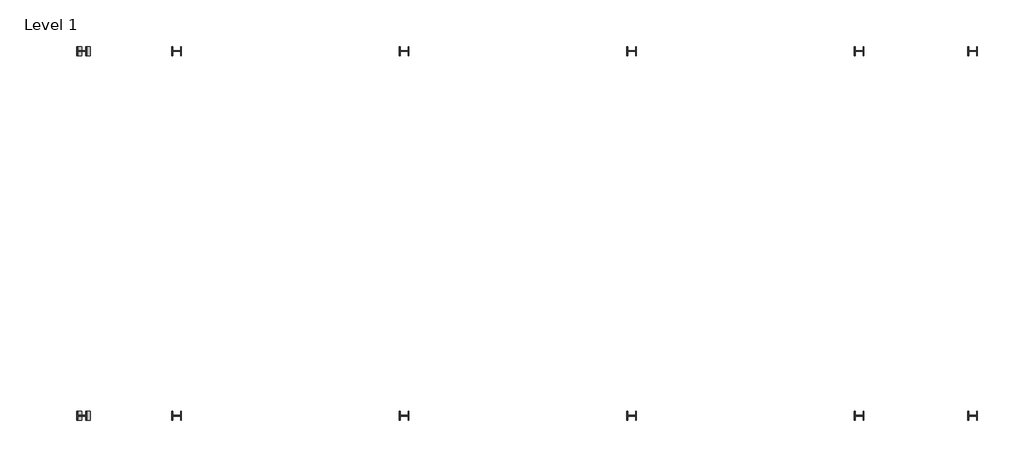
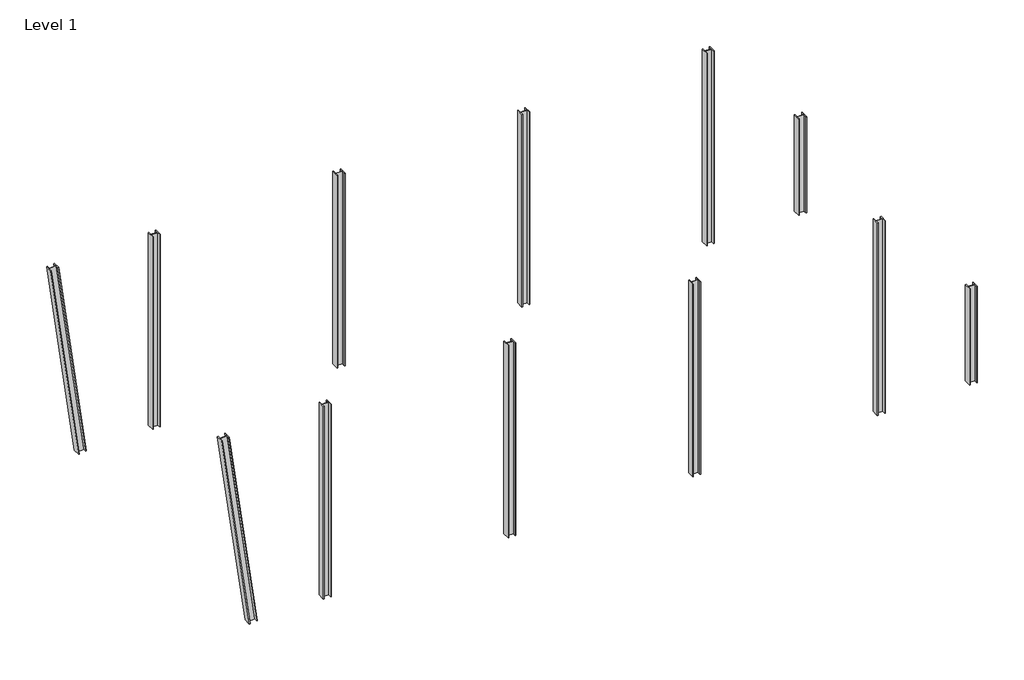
# One storey: 12 columns.
"""IFC4 building model written with IfcOpenShell, lengths in millimetres."""

from ifc_helpers import new_model, si_unit, frame, origin, origin_with_axes, place, context, project, spatial, polyline, outline, extrude, element, save

model = new_model("IFC4")

# Units and contexts
model_context = context("Model", 3, world=origin())
ifc_project = project(units=[si_unit("LENGTHUNIT", "METRE", prefix="MILLI")], contexts=[model_context])

# Site, building, storey
site = spatial("IfcSite", under=ifc_project)
building = spatial("IfcBuilding", under=site)
storey = spatial("IfcBuildingStorey", under=building, Name="Level 1", Elevation=0.0)

# Columns
placement = place(None, origin())
element("IfcColumn", 1, ObjectType="WC-Welded Columns-Column (AS 3679_2) : 400WC303", at=placement, inside=storey, context=model_context, shape_type="SweptSolid", body=[
    extrude(outline(polyline([(399.9999999, 1e-07), (399.9999999, -36.0), (213.9999999, -35.9999999), (213.9999999, -385.9999999), (399.9999999, -386.0), (399.9999999, -421.9999999), (0.0, -422.0), (0.0, -385.9999999), (186.0, -386.0), (186.0, -36.0), (0.0, -36.0), (0.0, 0.0), (399.9999999, 1e-07)])), frame((2425.9362911, 1164.9984492, -28.5086876), z_axis=(-0.13511320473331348, 0.0, 0.9908301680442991), x_axis=(-7.282601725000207e-06, 0.9999999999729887, -9.93082053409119e-07)), (0.0, 0.0, 1.0), 11101.8016556),
])
element("IfcColumn", 2, ObjectType="WC-Welded Columns-Column (AS 3679_2) : 400WC303", at=placement, inside=storey, context=model_context, shape_type="SweptSolid", body=[
    extrude(outline(polyline([(6423.999266, 1564.9992256), (6459.999266, 1564.9993577), (6459.9999486, 1378.9993577), (6809.9999486, 1379.0006422), (6809.999266, 1565.0006422), (6845.999266, 1565.0007744), (6846.000734, 1165.0007744), (6810.000734, 1165.0006423), (6810.0000514, 1351.0006423), (6460.0000514, 1350.9993578), (6460.000734, 1164.9993578), (6424.000734, 1164.9992256), (6423.999266, 1564.9992256)])), origin_with_axes(), (0.0, 0.0, 1.0), 11000.0),
])
element("IfcColumn", 3, ObjectType="WC-Welded Columns-Column (AS 3679_2) : 400WC303", at=placement, inside=storey, context=model_context, shape_type="SweptSolid", body=[
    extrude(outline(polyline([(16406.199266, -14435.0007744), (16442.199266, -14435.0006423), (16442.1999486, -14621.0006423), (16792.1999486, -14620.9993578), (16792.199266, -14434.9993578), (16828.199266, -14434.9992256), (16828.200734, -14834.9992256), (16792.200734, -14834.9993577), (16792.2000514, -14648.9993577), (16442.2000514, -14649.0006422), (16442.200734, -14835.0006422), (16406.200734, -14835.0007744), (16406.199266, -14435.0007744)])), origin_with_axes(), (0.0, 0.0, 1.0), 11000.0),
])
element("IfcColumn", 4, ObjectType="WC-Welded Columns-Column (AS 3679_2) : 400WC303", at=placement, inside=storey, context=model_context, shape_type="SweptSolid", body=[
    extrude(outline(polyline([(16406.199266, 1564.9992256), (16442.199266, 1564.9993577), (16442.1999486, 1378.9993577), (16792.1999486, 1379.0006422), (16792.199266, 1565.0006422), (16828.199266, 1565.0007744), (16828.200734, 1165.0007744), (16792.200734, 1165.0006423), (16792.2000514, 1351.0006423), (16442.2000514, 1350.9993578), (16442.200734, 1164.9993578), (16406.200734, 1164.9992256), (16406.199266, 1564.9992256)])), origin_with_axes(), (0.0, 0.0, 1.0), 11000.0),
])
element("IfcColumn", 5, ObjectType="WC-Welded Columns-Column (AS 3679_2) : 400WC303", at=placement, inside=storey, context=model_context, shape_type="SweptSolid", body=[
    extrude(outline(polyline([(26388.399266, -14435.0007744), (26424.399266, -14435.0006423), (26424.3999486, -14621.0006423), (26774.3999486, -14620.9993578), (26774.399266, -14434.9993578), (26810.399266, -14434.9992256), (26810.400734, -14834.9992256), (26774.400734, -14834.9993577), (26774.4000514, -14648.9993577), (26424.4000514, -14649.0006422), (26424.400734, -14835.0006422), (26388.400734, -14835.0007744), (26388.399266, -14435.0007744)])), origin_with_axes(), (0.0, 0.0, 1.0), 11000.0),
])
element("IfcColumn", 6, ObjectType="WC-Welded Columns-Column (AS 3679_2) : 400WC303", at=placement, inside=storey, context=model_context, shape_type="SweptSolid", body=[
    extrude(outline(polyline([(26388.399266, 1564.9992256), (26424.399266, 1564.9993577), (26424.3999486, 1378.9993577), (26774.3999486, 1379.0006422), (26774.399266, 1565.0006422), (26810.399266, 1565.0007744), (26810.400734, 1165.0007744), (26774.400734, 1165.0006423), (26774.4000514, 1351.0006423), (26424.4000514, 1350.9993578), (26424.400734, 1164.9993578), (26388.400734, 1164.9992256), (26388.399266, 1564.9992256)])), origin_with_axes(), (0.0, 0.0, 1.0), 11000.0),
])
element("IfcColumn", 7, ObjectType="WC-Welded Columns-Column (AS 3679_2) : 400WC303", at=placement, inside=storey, context=model_context, shape_type="SweptSolid", body=[
    extrude(outline(polyline([(36370.599266, -14435.0007744), (36406.599266, -14435.0006423), (36406.5999486, -14621.0006423), (36756.5999486, -14620.9993578), (36756.599266, -14434.9993578), (36792.599266, -14434.9992256), (36792.600734, -14834.9992256), (36756.600734, -14834.9993577), (36756.6000514, -14648.9993577), (36406.6000514, -14649.0006422), (36406.600734, -14835.0006422), (36370.600734, -14835.0007744), (36370.599266, -14435.0007744)])), origin_with_axes(), (0.0, 0.0, 1.0), 11000.0),
])
element("IfcColumn", 8, ObjectType="WC-Welded Columns-Column (AS 3679_2) : 400WC303", at=placement, inside=storey, context=model_context, shape_type="SweptSolid", body=[
    extrude(outline(polyline([(36370.599266, 1564.9992256), (36406.599266, 1564.9993577), (36406.5999486, 1378.9993577), (36756.5999486, 1379.0006422), (36756.599266, 1565.0006422), (36792.599266, 1565.0007744), (36792.600734, 1165.0007744), (36756.600734, 1165.0006423), (36756.6000514, 1351.0006423), (36406.6000514, 1350.9993578), (36406.600734, 1164.9993578), (36370.600734, 1164.9992256), (36370.599266, 1564.9992256)])), origin_with_axes(), (0.0, 0.0, 1.0), 11000.0),
])
element("IfcColumn", 9, ObjectType="WC-Welded Columns-Column (AS 3679_2) : 400WC303", at=placement, inside=storey, context=model_context, shape_type="SweptSolid", body=[
    extrude(outline(polyline([(41352.799266, -14435.0007744), (41388.799266, -14435.0006423), (41388.7999486, -14621.0006423), (41738.7999486, -14620.9993578), (41738.799266, -14434.9993578), (41774.799266, -14434.9992256), (41774.800734, -14834.9992256), (41738.800734, -14834.9993577), (41738.8000514, -14648.9993577), (41388.8000514, -14649.0006422), (41388.800734, -14835.0006422), (41352.800734, -14835.0007744), (41352.799266, -14435.0007744)])), origin_with_axes(), (0.0, 0.0, 1.0), 5500.0),
])
element("IfcColumn", 10, ObjectType="WC-Welded Columns-Column (AS 3679_2) : 400WC303", at=placement, inside=storey, context=model_context, shape_type="SweptSolid", body=[
    extrude(outline(polyline([(41352.799266, 1564.9992256), (41388.799266, 1564.9993577), (41388.7999486, 1378.9993577), (41738.7999486, 1379.0006422), (41738.799266, 1565.0006422), (41774.799266, 1565.0007744), (41774.800734, 1165.0007744), (41738.800734, 1165.0006423), (41738.8000514, 1351.0006423), (41388.8000514, 1350.9993578), (41388.800734, 1164.9993578), (41352.800734, 1164.9992256), (41352.799266, 1564.9992256)])), origin_with_axes(), (0.0, 0.0, 1.0), 5500.0),
])
element("IfcColumn", 11, ObjectType="WC-Welded Columns-Column (AS 3679_2) : 400WC303", at=placement, inside=storey, context=model_context, shape_type="SweptSolid", body=[
    extrude(outline(polyline([(399.9999999, 1e-07), (399.9999999, -36.0), (213.9999999, -35.9999999), (213.9999999, -385.9999999), (399.9999999, -386.0), (399.9999999, -421.9999999), (0.0, -422.0), (0.0, -385.9999999), (186.0, -386.0), (186.0, -36.0), (0.0, -36.0), (0.0, 0.0), (399.9999999, 1e-07)])), frame((2425.9362911, -14835.0015508, -28.5086876), z_axis=(-0.13511320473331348, 0.0, 0.9908301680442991), x_axis=(-7.282601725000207e-06, 0.9999999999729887, -9.93082053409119e-07)), (0.0, 0.0, 1.0), 11101.8016556),
])
element("IfcColumn", 12, ObjectType="WC-Welded Columns-Column (AS 3679_2) : 400WC303", at=placement, inside=storey, context=model_context, shape_type="SweptSolid", body=[
    extrude(outline(polyline([(6423.999266, -14435.0007744), (6459.999266, -14435.0006423), (6459.9999486, -14621.0006423), (6809.9999486, -14620.9993578), (6809.999266, -14434.9993578), (6845.999266, -14434.9992256), (6846.000734, -14834.9992256), (6810.000734, -14834.9993577), (6810.0000514, -14648.9993577), (6460.0000514, -14649.0006422), (6460.000734, -14835.0006422), (6424.000734, -14835.0007744), (6423.999266, -14435.0007744)])), origin_with_axes(), (0.0, 0.0, 1.0), 11000.0),
])

save(model, "model.ifc")
